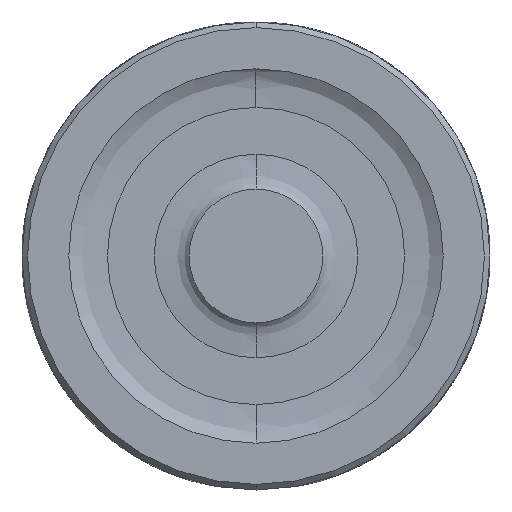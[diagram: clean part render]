
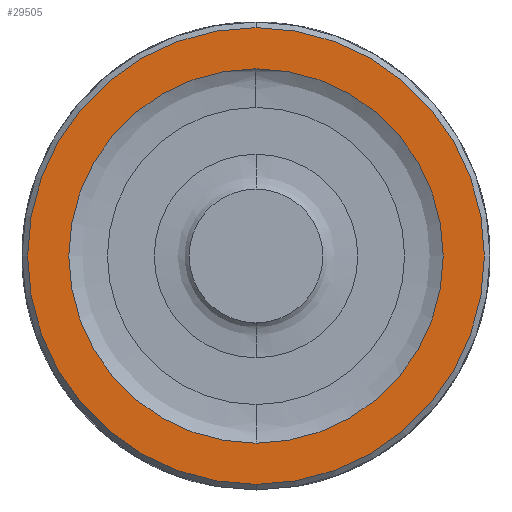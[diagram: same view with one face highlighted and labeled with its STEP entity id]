
A CAD part, front view. The second image highlights one B-rep face of the part: STEP entity #29505.
In plain terms, the highlighted planar face has unit normal (0, -1, 0).
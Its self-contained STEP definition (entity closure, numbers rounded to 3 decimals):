
#6096 = CARTESIAN_POINT ( 'NONE',  ( 0., -21., -10. ) ) ;
#6099 = PLANE ( 'NONE',  #30435 ) ;
#6101 = DIRECTION ( 'NONE',  ( 0., 1., 0. ) ) ;
#6102 = DIRECTION ( 'NONE',  ( 0., 0., 1. ) ) ;
#8916 = CARTESIAN_POINT ( 'NONE',  ( 0., -21., 0. ) ) ;
#8917 = DIRECTION ( 'NONE',  ( 0., 1., 0. ) ) ;
#8918 = DIRECTION ( 'NONE',  ( 0., 0., 1. ) ) ;
#9036 = AXIS2_PLACEMENT_3D ( 'NONE', #12310, #12311, #12312 ) ;
#9037 = AXIS2_PLACEMENT_3D ( 'NONE', #12332, #12333, #12334 ) ;
#12310 = CARTESIAN_POINT ( 'NONE',  ( 0., -21., 0. ) ) ;
#12311 = DIRECTION ( 'NONE',  ( 0., 1., 0. ) ) ;
#12312 = DIRECTION ( 'NONE',  ( 0., 0., 1. ) ) ;
#12332 = CARTESIAN_POINT ( 'NONE',  ( 0., -21., 0. ) ) ;
#12333 = DIRECTION ( 'NONE',  ( 0., -1., 0. ) ) ;
#12334 = DIRECTION ( 'NONE',  ( 0., 0., 1. ) ) ;
#14101 = AXIS2_PLACEMENT_3D ( 'NONE', #8916, #8917, #8918 ) ;
#14111 = AXIS2_PLACEMENT_3D ( 'NONE', #30741, #30743, #30745 ) ;
#14304 = FACE_OUTER_BOUND ( 'NONE', #30180, .T. ) ;
#14311 = FACE_BOUND ( 'NONE', #30165, .T. ) ;
#14573 = CIRCLE ( 'NONE', #9036, 10. ) ;
#14574 = CIRCLE ( 'NONE', #9037, 12.2 ) ;
#15697 = EDGE_CURVE ( 'NONE', #21428, #21447, #31219, .T. ) ;
#15722 = EDGE_CURVE ( 'NONE', #21522, #21528, #31264, .T. ) ;
#21428 = VERTEX_POINT ( 'NONE', #26233 ) ;
#21447 = VERTEX_POINT ( 'NONE', #26251 ) ;
#21522 = VERTEX_POINT ( 'NONE', #26312 ) ;
#21528 = VERTEX_POINT ( 'NONE', #26318 ) ;
#26233 = CARTESIAN_POINT ( 'NONE',  ( 0., -21., -10. ) ) ;
#26251 = CARTESIAN_POINT ( 'NONE',  ( 0., -21., 10. ) ) ;
#26312 = CARTESIAN_POINT ( 'NONE',  ( 0., -21., -12.2 ) ) ;
#26318 = CARTESIAN_POINT ( 'NONE',  ( 0., -21., 12.2 ) ) ;
#27051 = ORIENTED_EDGE ( 'NONE', *, *, #15697, .T. ) ;
#27087 = ORIENTED_EDGE ( 'NONE', *, *, #15722, .T. ) ;
#27148 = ORIENTED_EDGE ( 'NONE', *, *, #34672, .T. ) ;
#27153 = ORIENTED_EDGE ( 'NONE', *, *, #34674, .T. ) ;
#29505 = ADVANCED_FACE ( 'NONE', ( #14304, #14311 ), #6099, .F. ) ;
#30165 = EDGE_LOOP ( 'NONE', ( #27051, #27148 ) ) ;
#30180 = EDGE_LOOP ( 'NONE', ( #27153, #27087 ) ) ;
#30435 = AXIS2_PLACEMENT_3D ( 'NONE', #6096, #6101, #6102 ) ;
#30741 = CARTESIAN_POINT ( 'NONE',  ( 0., -21., 0. ) ) ;
#30743 = DIRECTION ( 'NONE',  ( 0., -1., 0. ) ) ;
#30745 = DIRECTION ( 'NONE',  ( 0., 0., 1. ) ) ;
#31219 = CIRCLE ( 'NONE', #14101, 10. ) ;
#31264 = CIRCLE ( 'NONE', #14111, 12.2 ) ;
#34672 = EDGE_CURVE ( 'NONE', #21447, #21428, #14573, .T. ) ;
#34674 = EDGE_CURVE ( 'NONE', #21528, #21522, #14574, .T. ) ;
